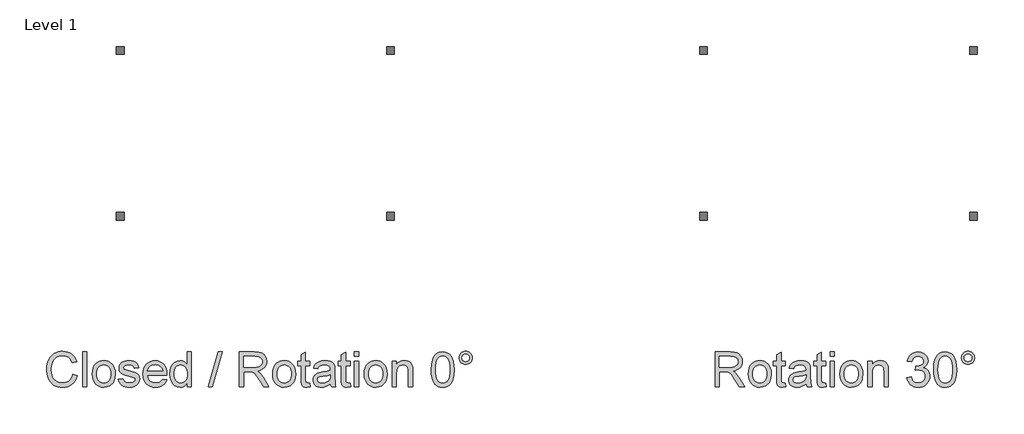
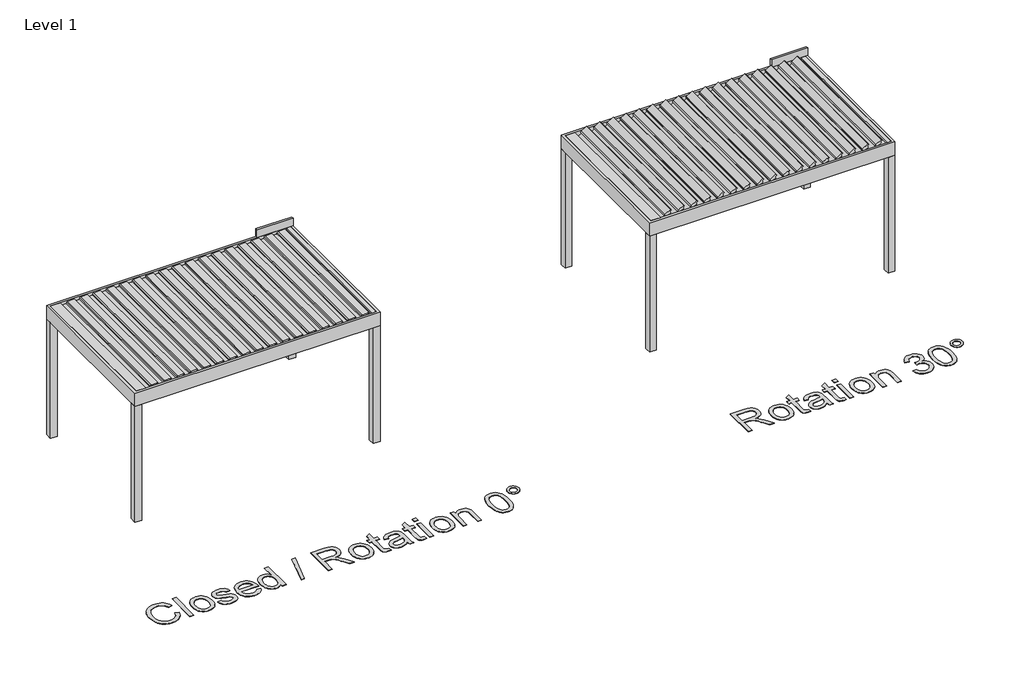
# One storey, part 25 of 47: 4 proxies.
"""IFC4 building model written with IfcOpenShell, lengths in millimetres."""

from ifc_helpers import new_model, si_unit, origin, origin_with_axes, place, context, project, spatial, polyline, outline, extrude, transform, mapped, element, save
from components import generic_models_6c472f40, generic_models_d936cac6

model = new_model("IFC4")

# Units and contexts
model_context = context("Model", 3, world=origin())
ifc_project = project(units=[si_unit("LENGTHUNIT", "METRE", prefix="MILLI")], contexts=[model_context])

# Site, building, storey
site = spatial("IfcSite", under=ifc_project)
building = spatial("IfcBuilding", under=site)
storey = spatial("IfcBuildingStorey", under=building, Name="Level 1", Elevation=0.0)

# Proxies
placement = place(None, origin())
generic_models_shape = generic_models_6c472f40(model_context)
element("IfcBuildingElementProxy", 1, Name="Renson_Algarve_Single : Algarve - Single", ObjectType="Renson_Algarve_Single : Algarve - Single", at=placement, inside=storey, context=model_context, shape_type="MappedRepresentation", body=[
    mapped(generic_models_shape, transform((-9296.834943, 67778.5861401, 0.0), x_axis=(1.0, 0.0, 0.0), y_axis=(0.0, 1.0, 0.0), z_axis=(0.0, 0.0, 1.0))),
])
generic_models_2_shape = generic_models_d936cac6(model_context)
element("IfcBuildingElementProxy", 2, Name="Renson_Algarve_Single : Algarve - Single", ObjectType="Renson_Algarve_Single : Algarve - Single", at=placement, inside=storey, context=model_context, shape_type="MappedRepresentation", body=[
    mapped(generic_models_2_shape, transform((-896.834943, 67778.5861401, 0.0), x_axis=(1.0, 0.0, 0.0), y_axis=(0.0, 1.0, 0.0), z_axis=(0.0, 0.0, 1.0))),
])
element("IfcBuildingElementProxy", 3, Name="500mm Arial", ObjectType="500mm Arial", at=placement, inside=storey, context=model_context, shape_type="SweptSolid", body=[
    extrude(outline(polyline([(-11927.2781087, 64307.1315351), (-11864.4929149, 64290.9447273), (-11876.9165964, 64251.8994185), (-11893.463622, 64217.7821955), (-11914.1339916, 64188.5930585), (-11938.9277053, 64164.3320073), (-11967.2852757, 64145.2596251), (-11998.6472158, 64131.636495), (-12033.0135255, 64123.4626169), (-12070.3842049, 64120.7379909), (-12108.6707571, 64122.7996629), (-12143.2095115, 64128.984679), (-12174.0004681, 64139.293039), (-12201.0436268, 64153.7247431), (-12224.7107018, 64172.0651934), (-12245.3734072, 64194.0997921), (-12263.031743, 64219.8285391), (-12277.6857091, 64249.2514346), (-12289.1935178, 64281.0962198), (-12297.4133811, 64314.0906362), (-12302.3452991, 64348.2346839), (-12303.9892718, 64383.5283628), (-12302.1307013, 64421.3972157), (-12296.5549898, 64456.7675367), (-12287.2621373, 64489.6393258), (-12274.2521439, 64520.012583), (-12257.8162493, 64547.3853027), (-12238.2456936, 64571.2554792), (-12215.5404767, 64591.6231126), (-12189.7005986, 64608.4882028), (-12161.6036112, 64621.7127941), (-12132.1270664, 64631.1589308), (-12101.270964, 64636.8266128), (-12069.0353042, 64638.7158401), (-12033.1246565, 64636.2709577), (-12000.1953859, 64628.9363104), (-11970.2474922, 64616.7118983), (-11943.2809755, 64599.5977213), (-11919.7403599, 64578.0459677), (-11900.0701695, 64552.5088259), (-11884.2704042, 64522.9862958), (-11872.3410641, 64489.4783774), (-11935.126258, 64474.5178429), (-11945.0130866, 64499.2080898), (-11956.8926093, 64520.3038229), (-11970.7648263, 64537.8050424), (-11986.6297373, 64551.7117483), (-12004.579313, 64562.3075161), (-12024.7055238, 64569.8759218), (-12047.0083698, 64574.4169651), (-12071.4878508, 64575.9306463), (-12099.6538161, 64574.2521847), (-12125.41322, 64569.2167999), (-12148.7660625, 64560.8244918), (-12169.7123436, 64549.0752606), (-12187.9876481, 64534.4979366), (-12203.3275609, 64517.62135), (-12215.7320819, 64498.445501), (-12225.2012112, 64476.9703896), (-12237.2033613, 64431.015797), (-12241.204078, 64383.6509901), (-12236.4675973, 64325.6482622), (-12222.2581552, 64275.4936835), (-12211.46695, 64253.8384632), (-12198.0392572, 64235.1033062), (-12181.9750767, 64219.2882125), (-12163.2744086, 64206.3931821), (-12121.5964443, 64189.2406841), (-12076.6381988, 64183.5231847), (-12049.3421212, 64185.4698936), (-12024.2303429, 64191.3100203), (-12001.302864, 64201.0435648), (-11980.5596844, 64214.670527), (-11962.4913135, 64232.1295934), (-11947.5882606, 64253.3594502), (-11935.8505256, 64278.3600974), (-11927.2781087, 64307.1315351)])), origin_with_axes(), (0.0, 0.0, 1.0), 5.0),
    extrude(outline(polyline([(-11786.0114226, 64128.5861401), (-11786.0114226, 64630.8676909), (-11723.2262287, 64630.8676909), (-11723.2262287, 64128.5861401), (-11786.0114226, 64128.5861401)])), origin_with_axes(), (0.0, 0.0, 1.0), 5.0),
    extrude(outline(polyline([(-11644.7447364, 64313.0176471), (-11641.3494922, 64360.788657), (-11631.1637595, 64401.9531194), (-11614.1875382, 64436.5110343), (-11590.4208285, 64464.4624017), (-11566.4931704, 64482.3276711), (-11540.0823088, 64495.0885778), (-11511.1882438, 64502.7451219), (-11479.8109753, 64505.2973032), (-11445.1725862, 64502.1894668), (-11413.8527992, 64492.8659574), (-11385.8516144, 64477.3267753), (-11361.1690318, 64455.5719202), (-11341.0236605, 64428.3371562), (-11326.6341095, 64396.3582474), (-11318.000379, 64359.6351936), (-11315.1224688, 64318.167995), (-11320.211503, 64254.7390076), (-11326.5727959, 64228.7036923), (-11335.4786058, 64206.4544958), (-11346.8178019, 64187.2364936), (-11360.4792531, 64170.2947613), (-11376.4629594, 64155.6292989), (-11394.7689207, 64143.2401063), (-11435.4965233, 64126.3635197), (-11479.8109753, 64120.7379909), (-11514.9552021, 64123.834331), (-11546.566229, 64133.1233514), (-11574.6440558, 64148.605052), (-11599.1886827, 64170.2794329), (-11619.1194562, 64197.7786121), (-11633.355723, 64230.7347075), (-11641.8974831, 64269.1477191), (-11644.7447364, 64313.0176471)]), holes=[polyline([(-11581.9595426, 64313.1402744), (-11580.1431252, 64282.686543), (-11574.6938732, 64256.3178345), (-11565.6117864, 64234.0341491), (-11552.896865, 64215.8354867), (-11537.4304928, 64201.6988546), (-11520.0940537, 64191.6012602), (-11500.8875479, 64185.5427036), (-11479.8109753, 64183.5231847), (-11458.8417015, 64185.5541999), (-11439.7118378, 64191.6472455), (-11422.421384, 64201.8023214), (-11406.9703402, 64216.0194277), (-11394.2554188, 64234.398199), (-11385.173332, 64257.0382701), (-11379.72408, 64283.939641), (-11377.9076626, 64315.1023117), (-11379.7355763, 64344.5903529), (-11385.2193173, 64370.2692826), (-11394.3588856, 64392.1391007), (-11407.1542812, 64410.1998074), (-11422.6628066, 64424.3364395), (-11439.941764, 64434.4340339), (-11458.9911536, 64440.4925905), (-11479.8109753, 64442.5121094), (-11500.8875479, 64440.5002547), (-11520.0940537, 64434.4646907), (-11537.4304928, 64424.4054174), (-11552.896865, 64410.3224348), (-11565.6117864, 64392.1774218), (-11574.6938732, 64369.9320574), (-11580.1431252, 64343.5863416), (-11581.9595426, 64313.1402744)])]), origin_with_axes(), (0.0, 0.0, 1.0), 5.0),
    extrude(outline(polyline([(-11268.0335734, 64238.4602294), (-11205.2483795, 64246.3083786), (-11195.3462225, 64219.4529929), (-11176.1857019, 64199.7099925), (-11147.6441905, 64187.5698867), (-11109.5990608, 64183.5231847), (-11072.0137836, 64187.2326615), (-11045.5875936, 64198.3610919), (-11029.9526088, 64214.486586), (-11024.7409472, 64233.1872541), (-11029.9832657, 64249.1901209), (-11045.710221, 64261.3915404), (-11110.3348248, 64279.2951308), (-11167.6324455, 64295.865149), (-11204.8804975, 64310.0132774), (-11228.8081556, 64325.4489928), (-11246.1445947, 64345.881772), (-11256.6752168, 64370.0086995), (-11260.1854241, 64396.52686), (-11257.3649955, 64420.8530569), (-11248.9037096, 64443.309187), (-11235.5679873, 64463.0062022), (-11218.1242494, 64479.0550542), (-11200.7878103, 64489.1564807), (-11178.2090529, 64497.633095), (-11152.1047596, 64503.3812511), (-11124.1917133, 64505.2973032), (-11083.326155, 64502.2162915), (-11047.7948856, 64492.9732564), (-11019.2227173, 64478.4725744), (-10999.2344622, 64459.6186221), (-10985.9907104, 64435.0165137), (-10977.6520519, 64403.2713632), (-11040.4372457, 64395.423214), (-11048.362037, 64415.1815428), (-11064.0430071, 64430.0654352), (-11087.63344, 64439.4004408), (-11119.28662, 64442.5121094), (-11155.3390555, 64439.5383966), (-11179.3740125, 64430.6172582), (-11192.8936759, 64417.7413883), (-11197.4002303, 64402.9034812), (-11195.5301635, 64393.2465788), (-11189.9199631, 64384.6320088), (-11180.3243744, 64376.9371437), (-11166.4981427, 64370.7751203), (-11112.4194894, 64357.4087411), (-11020.2650496, 64327.8555542), (-10995.9235243, 64313.7227542), (-10977.4681109, 64294.3782926), (-10965.8338428, 64269.7608558), (-10961.9557534, 64239.80913), (-10966.5082931, 64208.8457287), (-10980.1659122, 64179.7217375), (-11002.4074444, 64154.7210902), (-11032.7117238, 64136.127721), (-11069.3159823, 64124.5854234), (-11110.4574521, 64120.7379909), (-11144.2489462, 64122.5927293), (-11173.7638121, 64128.1569445), (-11199.0020498, 64137.4306364), (-11219.9636593, 64150.4138052), (-11237.0855005, 64167.045137), (-11250.8044333, 64187.2633184), (-11261.1204576, 64211.0683491), (-11268.0335734, 64238.4602294)])), origin_with_axes(), (0.0, 0.0, 1.0), 5.0),
    extrude(outline(polyline([(-10633.0692497, 64238.4602294), (-10571.5103292, 64230.6120801), (-10580.9488016, 64205.9563222), (-10593.6905478, 64184.2282919), (-10609.7355677, 64165.4279891), (-10629.0838614, 64149.5554139), (-10651.5361594, 64136.9477913), (-10676.8931924, 64127.9423466), (-10705.1549602, 64122.5390798), (-10736.321463, 64120.7379909), (-10775.2786335, 64123.8458273), (-10809.9898326, 64133.1693367), (-10840.4550603, 64148.7085189), (-10866.6743166, 64170.4633739), (-10887.7585535, 64197.8284294), (-10902.8187227, 64230.1982129), (-10911.8548242, 64267.5727243), (-10914.866858, 64309.9519638), (-10911.8241673, 64353.7682422), (-10902.6960953, 64392.3881875), (-10887.482642, 64425.8117996), (-10866.1838073, 64454.0390785), (-10840.0335288, 64476.4645518), (-10810.265744, 64492.482747), (-10776.880453, 64502.0936642), (-10739.8776556, 64505.2973032), (-10704.0666427, 64502.1013284), (-10671.6815308, 64492.5134039), (-10642.72232, 64476.5335297), (-10617.1890102, 64454.1617059), (-10596.346196, 64425.9957406), (-10581.4584715, 64392.6334422), (-10572.5258368, 64354.0748106), (-10569.5482919, 64310.3198458), (-10569.9161739, 64293.397274), (-10852.0816642, 64293.397274), (-10848.4449974, 64268.3429773), (-10841.2138169, 64246.4003491), (-10830.3881228, 64227.5693895), (-10815.967915, 64211.8500984), (-10798.7502712, 64199.4570737), (-10779.532269, 64190.6049132), (-10758.3139085, 64185.2936169), (-10735.0951897, 64183.5231847), (-10701.6792418, 64186.8034659), (-10673.5362692, 64196.6443092), (-10650.6662718, 64213.6588515), (-10633.0692497, 64238.4602294)]), holes=[polyline([(-10852.0816642, 64356.1824678), (-10632.3334857, 64356.1824678), (-10640.8254284, 64389.353161), (-10657.4720887, 64413.0815497), (-10674.5939299, 64425.9574196), (-10694.0763472, 64435.1544694), (-10715.9193407, 64440.6726994), (-10740.1229103, 64442.5121094), (-10782.4446682, 64436.6413258), (-10800.8579284, 64429.3028465), (-10817.439443, 64419.0289753), (-10831.353813, 64406.2948933), (-10841.7656399, 64391.5757814), (-10848.6749236, 64374.8716396), (-10852.0816642, 64356.1824678)])]), origin_with_axes(), (0.0, 0.0, 1.0), 5.0),
    extrude(outline(polyline([(-10279.1667703, 64128.5861401), (-10279.1667703, 64187.8151414), (-10297.9517447, 64158.468888), (-10320.706779, 64137.5072785), (-10347.4318731, 64124.9303128), (-10378.127027, 64120.7379909), (-10418.7166738, 64126.8080438), (-10455.8727554, 64145.0182026), (-10487.3266659, 64174.0962086), (-10510.8098, 64212.7698034), (-10525.4331093, 64259.4754883), (-10530.3075457, 64312.6497651), (-10525.8163197, 64365.1649199), (-10512.3426416, 64412.5910404), (-10502.2412152, 64433.7212625), (-10489.9018399, 64452.2303254), (-10475.3245159, 64468.1182291), (-10458.509243, 64481.3849735), (-10420.5407554, 64499.3192208), (-10378.3722817, 64505.2973032), (-10347.6541351, 64501.020675), (-10320.4921811, 64488.1907904), (-10297.4688996, 64468.5244321), (-10279.1667703, 64443.7383827), (-10279.1667703, 64630.8676909), (-10216.3815765, 64630.8676909), (-10216.3815765, 64128.5861401), (-10279.1667703, 64128.5861401)]), holes=[polyline([(-10467.5223519, 64312.8950197), (-10465.7519198, 64282.4489525), (-10460.4406235, 64256.1032367), (-10451.588463, 64233.8578723), (-10439.1954382, 64215.7128593), (-10424.3958521, 64201.6298767), (-10408.3240075, 64191.5706034), (-10390.9799043, 64185.5350394), (-10372.3635425, 64183.5231847), (-10353.6590423, 64185.4430689), (-10336.4184058, 64191.2027214), (-10320.6416332, 64200.8021422), (-10306.3287243, 64214.2413313), (-10294.4453695, 64231.6275877), (-10285.9572588, 64253.0682103), (-10280.8643925, 64278.5631989), (-10279.1667703, 64308.1125538), (-10280.8950493, 64340.509162), (-10286.0798862, 64368.2919168), (-10294.721281, 64391.4608183), (-10306.8192336, 64410.0158664), (-10321.4463751, 64424.2329727), (-10337.675336, 64434.3880486), (-10355.5061164, 64440.4810942), (-10374.9387164, 64442.5121094), (-10393.9229602, 64440.5615684), (-10411.2670634, 64434.7099454), (-10426.9710261, 64424.9572404), (-10441.0348482, 64411.3034534), (-10452.6231311, 64393.4496804), (-10460.900476, 64371.097017), (-10465.8668829, 64344.2454635), (-10467.5223519, 64312.8950197)])]), origin_with_axes(), (0.0, 0.0, 1.0), 5.0),
    extrude(outline(polyline([(-9973.0889504, 64128.5861401), (-9831.8222642, 64630.8676909), (-9775.168437, 64630.8676909), (-9916.4351231, 64128.5861401), (-9973.0889504, 64128.5861401)])), origin_with_axes(), (0.0, 0.0, 1.0), 5.0),
    extrude(outline(polyline([(-9525.7444442, 64128.5861401), (-9525.7444442, 64630.8676909), (-9309.3072037, 64630.8676909), (-9251.1358632, 64627.4801108), (-9208.8141054, 64617.3173707), (-9177.881361, 64598.555389), (-9153.8770608, 64569.370084), (-9138.4720022, 64533.1796927), (-9133.3369827, 64493.402452), (-9135.4638005, 64467.6047271), (-9141.8442538, 64443.9223237), (-9152.4783428, 64422.3552417), (-9167.3660673, 64402.9034812), (-9186.6990325, 64386.187843), (-9210.6688438, 64372.8291281), (-9239.275501, 64362.8273364), (-9272.5190042, 64356.1824678), (-9251.825642, 64342.6628045), (-9236.8344507, 64329.3270822), (-9185.944108, 64264.7024784), (-9102.1896404, 64128.5861401), (-9175.1529028, 64128.5861401), (-9240.5132706, 64232.6967448), (-9287.7247933, 64301.6133052), (-9305.2758302, 64321.7088592), (-9320.8954866, 64334.1708618), (-9350.7552419, 64346.1270266), (-9387.1755594, 64348.3343186), (-9462.9592504, 64348.3343186), (-9462.9592504, 64128.5861401), (-9525.7444442, 64128.5861401)]), holes=[polyline([(-9462.9592504, 64411.1195124), (-9322.4283282, 64411.1195124), (-9282.0686077, 64413.3421328), (-9250.7526528, 64420.009994), (-9227.1775483, 64431.56762), (-9210.0403787, 64448.4595349), (-9199.6017271, 64468.8923141), (-9196.1221765, 64491.0725327), (-9197.7814776, 64507.129049), (-9202.7593809, 64521.6987088), (-9211.0558863, 64534.7815123), (-9222.6709939, 64546.3774593), (-9237.8729509, 64555.8734133), (-9256.9300047, 64562.6562376), (-9306.6094024, 64568.082497), (-9462.9592504, 64568.082497), (-9462.9592504, 64411.1195124)])]), origin_with_axes(), (0.0, 0.0, 1.0), 5.0),
    extrude(outline(polyline([(-9047.0073412, 64313.0176471), (-9043.6120969, 64360.788657), (-9033.4263642, 64401.9531194), (-9016.4501429, 64436.5110343), (-8992.6834332, 64464.4624017), (-8968.7557751, 64482.3276711), (-8942.3449135, 64495.0885778), (-8913.4508485, 64502.7451219), (-8882.07358, 64505.2973032), (-8847.4351909, 64502.1894668), (-8816.1154039, 64492.8659574), (-8788.1142192, 64477.3267753), (-8763.4316366, 64455.5719202), (-8743.2862652, 64428.3371562), (-8728.8967143, 64396.3582474), (-8720.2629837, 64359.6351936), (-8717.3850735, 64318.167995), (-8722.4741078, 64254.7390076), (-8728.8354006, 64228.7036923), (-8737.7412106, 64206.4544958), (-8749.0804066, 64187.2364936), (-8762.7418578, 64170.2947613), (-8778.7255641, 64155.6292989), (-8797.0315254, 64143.2401063), (-8837.759128, 64126.3635197), (-8882.07358, 64120.7379909), (-8917.2178068, 64123.834331), (-8948.8288337, 64133.1233514), (-8976.9066606, 64148.605052), (-9001.4512874, 64170.2794329), (-9021.3820609, 64197.7786121), (-9035.6183277, 64230.7347075), (-9044.1600878, 64269.1477191), (-9047.0073412, 64313.0176471)]), holes=[polyline([(-8984.2221473, 64313.1402744), (-8982.40573, 64282.686543), (-8976.9564779, 64256.3178345), (-8967.8743912, 64234.0341491), (-8955.1594697, 64215.8354867), (-8939.6930975, 64201.6988546), (-8922.3566585, 64191.6012602), (-8903.1501526, 64185.5427036), (-8882.07358, 64183.5231847), (-8861.1043063, 64185.5541999), (-8841.9744425, 64191.6472455), (-8824.6839887, 64201.8023214), (-8809.232945, 64216.0194277), (-8796.5180235, 64234.398199), (-8787.4359367, 64257.0382701), (-8781.9866847, 64283.939641), (-8780.1702673, 64315.1023117), (-8781.998181, 64344.5903529), (-8787.481922, 64370.2692826), (-8796.6214903, 64392.1391007), (-8809.4168859, 64410.1998074), (-8824.9254113, 64424.3364395), (-8842.2043688, 64434.4340339), (-8861.2537583, 64440.4925905), (-8882.07358, 64442.5121094), (-8903.1501526, 64440.5002547), (-8922.3566585, 64434.4646907), (-8939.6930975, 64424.4054174), (-8955.1594697, 64410.3224348), (-8967.8743912, 64392.1774218), (-8976.9564779, 64369.9320574), (-8982.40573, 64343.5863416), (-8984.2221473, 64313.1402744)])]), origin_with_axes(), (0.0, 0.0, 1.0), 5.0),
    extrude(outline(polyline([(-8513.3331935, 64180.9480108), (-8505.4850443, 64126.7467302), (-8552.4513123, 64120.7379909), (-8582.5869791, 64123.3438217), (-8605.0584376, 64131.1613141), (-8620.9386771, 64143.2094494), (-8631.3006866, 64158.5072091), (-8637.0028575, 64184.7801149), (-8638.9035812, 64229.7536888), (-8638.9035812, 64434.6639601), (-8685.9924766, 64434.6639601), (-8685.9924766, 64497.449154), (-8638.9035812, 64497.449154), (-8638.9035812, 64587.0897335), (-8576.1183873, 64624.0005603), (-8576.1183873, 64497.449154), (-8513.3331935, 64497.449154), (-8513.3331935, 64434.6639601), (-8576.1183873, 64434.6639601), (-8576.1183873, 64231.5930988), (-8572.8074494, 64199.2194832), (-8562.0775579, 64187.7538277), (-8540.6790885, 64183.5231847), (-8513.3331935, 64180.9480108)])), origin_with_axes(), (0.0, 0.0, 1.0), 5.0),
    extrude(outline(polyline([(-8215.1035227, 64175.6750355), (-8245.1012338, 64149.9539527), (-8275.9879929, 64133.1233514), (-8308.4689074, 64123.834331), (-8343.2490844, 64120.7379909), (-8371.2042839, 64122.6003935), (-8395.718254, 64128.1876013), (-8416.7909945, 64137.4996143), (-8434.4225055, 64150.5364325), (-8448.3445398, 64166.4703214), (-8458.28885, 64184.4735466), (-8464.2554361, 64204.5461079), (-8466.2442981, 64226.6880055), (-8463.2399285, 64252.7156567), (-8454.2268196, 64276.3520749), (-8440.3239459, 64296.5855846), (-8422.6502817, 64312.4045104), (-8401.8802774, 64324.3606752), (-8378.6883833, 64333.0059021), (-8324.3644753, 64342.4482067), (-8260.1690671, 64352.3810205), (-8215.4714047, 64364.030617), (-8215.1035227, 64378.0101329), (-8219.4261362, 64406.0304782), (-8232.3939765, 64424.3632643), (-8245.4691158, 64432.303384), (-8261.3953405, 64437.9748981), (-8301.8010463, 64442.5121094), (-8339.2023824, 64439.4924113), (-8365.3220041, 64430.4333172), (-8383.133624, 64413.679358), (-8395.610955, 64387.5750647), (-8458.3961489, 64395.423214), (-8447.4976448, 64429.7588669), (-8431.2341949, 64456.7368798), (-8408.088286, 64477.3689284), (-8376.542405, 64492.666688), (-8337.9607807, 64502.1396494), (-8293.7076424, 64505.2973032), (-8251.2632572, 64502.5075314), (-8217.617383, 64494.138216), (-8192.2488538, 64481.5535861), (-8174.6365033, 64466.1178707), (-8162.9562499, 64447.0339922), (-8155.3840122, 64423.5048729), (-8152.3183289, 64368.5678283), (-8152.3183289, 64290.454218), (-8149.1300183, 64181.3772064), (-8144.408866, 64154.4145219), (-8136.6220304, 64128.5861401), (-8199.4072243, 64128.5861401), (-8209.4626655, 64150.4138052), (-8215.1035227, 64175.6750355)]), holes=[polyline([(-8215.1035227, 64301.2454232), (-8257.2873249, 64290.7914432), (-8316.3936987, 64281.9929321), (-8370.4110384, 64271.8148636), (-8384.4671963, 64264.8557625), (-8394.875191, 64255.2601738), (-8401.313126, 64243.7638615), (-8403.4591043, 64231.1025895), (-8398.7839372, 64212.4325782), (-8384.7584362, 64197.1348186), (-8361.6891694, 64186.9260932), (-8329.8827052, 64183.5231847), (-8296.160189, 64187.2786468), (-8266.3617474, 64198.5450329), (-8242.2041631, 64215.1457079), (-8225.4042186, 64234.9040367), (-8217.9546082, 64255.2601738), (-8215.4714047, 64283.4644601), (-8215.1035227, 64301.2454232)])]), origin_with_axes(), (0.0, 0.0, 1.0), 5.0),
    extrude(outline(polyline([(-7932.5701504, 64180.9480108), (-7924.7220012, 64126.7467302), (-7971.6882693, 64120.7379909), (-8001.823936, 64123.3438217), (-8024.2953946, 64131.1613141), (-8040.175634, 64143.2094494), (-8050.5376436, 64158.5072091), (-8056.2398145, 64184.7801149), (-8058.1405381, 64229.7536888), (-8058.1405381, 64434.6639601), (-8105.2294335, 64434.6639601), (-8105.2294335, 64497.449154), (-8058.1405381, 64497.449154), (-8058.1405381, 64587.0897335), (-7995.3553443, 64624.0005603), (-7995.3553443, 64497.449154), (-7932.5701504, 64497.449154), (-7932.5701504, 64434.6639601), (-7995.3553443, 64434.6639601), (-7995.3553443, 64231.5930988), (-7992.0444063, 64199.2194832), (-7981.3145148, 64187.7538277), (-7959.9160454, 64183.5231847), (-7932.5701504, 64180.9480108)])), origin_with_axes(), (0.0, 0.0, 1.0), 5.0),
    extrude(outline(polyline([(-7869.7849566, 64128.5861401), (-7869.7849566, 64497.449154), (-7806.9997628, 64497.449154), (-7806.9997628, 64128.5861401), (-7869.7849566, 64128.5861401)])), origin_with_axes(), (0.0, 0.0, 1.0), 5.0),
    extrude(outline(polyline([(-7869.7849566, 64568.082497), (-7869.7849566, 64630.8676909), (-7806.9997628, 64630.8676909), (-7806.9997628, 64568.082497), (-7869.7849566, 64568.082497)])), origin_with_axes(), (0.0, 0.0, 1.0), 5.0),
    extrude(outline(polyline([(-7728.5182705, 64313.0176471), (-7725.1230262, 64360.788657), (-7714.9372935, 64401.9531194), (-7697.9610722, 64436.5110343), (-7674.1943625, 64464.4624017), (-7650.2667044, 64482.3276711), (-7623.8558428, 64495.0885778), (-7594.9617778, 64502.7451219), (-7563.5845093, 64505.2973032), (-7528.9461202, 64502.1894668), (-7497.6263332, 64492.8659574), (-7469.6251485, 64477.3267753), (-7444.9425658, 64455.5719202), (-7424.7971945, 64428.3371562), (-7410.4076435, 64396.3582474), (-7401.773913, 64359.6351936), (-7398.8960028, 64318.167995), (-7403.985037, 64254.7390076), (-7410.3463299, 64228.7036923), (-7419.2521398, 64206.4544958), (-7430.5913359, 64187.2364936), (-7444.2527871, 64170.2947613), (-7460.2364934, 64155.6292989), (-7478.5424547, 64143.2401063), (-7519.2700573, 64126.3635197), (-7563.5845093, 64120.7379909), (-7598.7287361, 64123.834331), (-7630.339763, 64133.1233514), (-7658.4175899, 64148.605052), (-7682.9622167, 64170.2794329), (-7702.8929902, 64197.7786121), (-7717.129257, 64230.7347075), (-7725.6710171, 64269.1477191), (-7728.5182705, 64313.0176471)]), holes=[polyline([(-7665.7330766, 64313.1402744), (-7663.9166593, 64282.686543), (-7658.4674072, 64256.3178345), (-7649.3853204, 64234.0341491), (-7636.670399, 64215.8354867), (-7621.2040268, 64201.6988546), (-7603.8675878, 64191.6012602), (-7584.6610819, 64185.5427036), (-7563.5845093, 64183.5231847), (-7542.6152356, 64185.5541999), (-7523.4853718, 64191.6472455), (-7506.194918, 64201.8023214), (-7490.7438742, 64216.0194277), (-7478.0289528, 64234.398199), (-7468.946866, 64257.0382701), (-7463.497614, 64283.939641), (-7461.6811966, 64315.1023117), (-7463.5091103, 64344.5903529), (-7468.9928513, 64370.2692826), (-7478.1324196, 64392.1391007), (-7490.9278152, 64410.1998074), (-7506.4363406, 64424.3364395), (-7523.7152981, 64434.4340339), (-7542.7646876, 64440.4925905), (-7563.5845093, 64442.5121094), (-7584.6610819, 64440.5002547), (-7603.8675878, 64434.4646907), (-7621.2040268, 64424.4054174), (-7636.670399, 64410.3224348), (-7649.3853204, 64392.1774218), (-7658.4674072, 64369.9320574), (-7663.9166593, 64343.5863416), (-7665.7330766, 64313.1402744)])]), origin_with_axes(), (0.0, 0.0, 1.0), 5.0),
    extrude(outline(polyline([(-7328.2626597, 64128.5861401), (-7328.2626597, 64497.449154), (-7265.4774659, 64497.449154), (-7265.4774659, 64445.9456746), (-7243.6651292, 64471.9120121), (-7217.4688655, 64490.4593961), (-7186.8886746, 64501.5878264), (-7151.9245567, 64505.2973032), (-7120.9764838, 64502.308262), (-7092.6342418, 64493.3411384), (-7068.9978236, 64479.5149067), (-7052.1672223, 64461.9485414), (-7040.7475521, 64440.6880278), (-7033.3439269, 64415.779351), (-7030.0329889, 64355.0788218), (-7030.0329889, 64128.5861401), (-7092.8181828, 64128.5861401), (-7092.8181828, 64346.6175359), (-7094.6269359, 64379.083122), (-7100.0531954, 64402.1677172), (-7110.0626513, 64418.7070786), (-7125.620994, 64431.5369632), (-7145.5632638, 64439.7683228), (-7168.7245011, 64442.5121094), (-7187.7892191, 64440.9716035), (-7205.4973722, 64436.3500859), (-7221.8489605, 64428.6475567), (-7236.8439839, 64417.8640157), (-7249.3711323, 64402.7731897), (-7258.3190954, 64382.1488053), (-7263.6878732, 64355.9908626), (-7265.4774659, 64324.2993616), (-7265.4774659, 64128.5861401), (-7328.2626597, 64128.5861401)])), origin_with_axes(), (0.0, 0.0, 1.0), 5.0),
    extrude(outline(polyline([(-6763.1959151, 64375.6802136), (-6758.5820618, 64456.0777579), (-6744.7405017, 64520.196524), (-6734.3938206, 64546.3966198), (-6721.8091907, 64569.0175304), (-6706.9866119, 64588.0592558), (-6689.9260844, 64603.5217959), (-6670.5701265, 64615.485625), (-6648.8612567, 64624.0312171), (-6624.7994749, 64629.1585724), (-6598.3847813, 64630.8676909), (-6559.6958581, 64626.8209889), (-6525.0536369, 64614.6808831), (-6496.0829298, 64594.9225543), (-6474.4085489, 64568.0211834), (-6458.0378001, 64534.2066967), (-6444.9779893, 64493.7090203), (-6436.4247329, 64442.2821831), (-6433.5736474, 64375.6802136), (-6438.1415155, 64295.7425217), (-6451.8451199, 64231.7770398), (-6462.1113268, 64205.5654476), (-6474.6384751, 64182.9100481), (-6489.4265649, 64163.8108412), (-6506.4755961, 64148.2678269), (-6525.8545467, 64136.2235236), (-6547.6323944, 64127.6204499), (-6571.8091392, 64122.4586057), (-6598.3847813, 64120.7379909), (-6632.9656888, 64123.7270321), (-6663.6225217, 64132.6941557), (-6690.3552801, 64147.6393618), (-6713.1639638, 64168.5626503), (-6735.0529425, 64206.3855179), (-6750.6879273, 64253.5127343), (-6760.0689181, 64309.9442995), (-6763.1959151, 64375.6802136)]), holes=[polyline([(-6700.4107213, 64375.8028409), (-6698.5713113, 64321.222182), (-6693.0530814, 64277.0418536), (-6683.8560315, 64243.2618558), (-6670.9801617, 64219.8821886), (-6655.4064905, 64203.9751244), (-6638.1160367, 64192.6129357), (-6619.1088003, 64185.7956225), (-6598.3847813, 64183.5231847), (-6577.6607622, 64185.8032867), (-6558.6535258, 64192.6435925), (-6541.363072, 64204.0441023), (-6525.7894009, 64220.0048159), (-6512.9135311, 64243.4228042), (-6503.7164812, 64277.1951378), (-6498.1982512, 64321.3218167), (-6496.3588413, 64375.8028409), (-6498.1369376, 64428.9387966), (-6503.4712265, 64472.3412078), (-6512.3617081, 64506.0100746), (-6524.8083822, 64529.9453969), (-6540.1214703, 64546.6303782), (-6557.6111935, 64558.548222), (-6577.2775518, 64565.6989283), (-6599.1205453, 64568.082497), (-6619.7372654, 64565.982504), (-6638.4226051, 64559.6825248), (-6655.1765643, 64549.1825595), (-6669.999143, 64534.4826081), (-6683.3042085, 64508.4243002), (-6692.8078267, 64473.2915696), (-6698.5099976, 64429.0844165), (-6700.4107213, 64375.8028409)])]), origin_with_axes(), (0.0, 0.0, 1.0), 5.0),
    extrude(outline(polyline([(-6362.9403044, 64544.6606767), (-6361.2120254, 64563.4916363), (-6356.0271885, 64580.8663964), (-6347.3857937, 64596.7849569), (-6335.2878411, 64611.2473178), (-6320.7679986, 64623.2647963), (-6304.8609344, 64631.8487095), (-6287.5666485, 64636.9990575), (-6268.8851409, 64638.7158401), (-6249.9468824, 64636.9990575), (-6232.4954802, 64631.8487095), (-6216.5309345, 64623.2647963), (-6202.0532451, 64611.2473178), (-6190.0357666, 64596.7849569), (-6181.4518534, 64580.8663964), (-6176.3015055, 64563.4916363), (-6174.5847228, 64544.6606767), (-6176.3130018, 64525.8718702), (-6181.4978387, 64508.5009422), (-6190.1392334, 64492.5478928), (-6202.2371861, 64478.0127219), (-6216.772357, 64465.9147692), (-6232.7254065, 64457.2733744), (-6250.0963344, 64452.0885375), (-6268.8851409, 64450.3602586), (-6287.5666485, 64452.0770412), (-6304.8609344, 64457.2273892), (-6320.7679986, 64465.8113024), (-6335.2878411, 64477.8287809), (-6347.3857937, 64492.3064702), (-6356.0271885, 64508.271016), (-6361.2120254, 64525.7224181), (-6362.9403044, 64544.6606767)]), holes=[polyline([(-6323.6995582, 64544.5380493), (-6319.6681847, 64523.4154915), (-6307.5740641, 64505.6651852), (-6289.7777726, 64493.6170498), (-6268.6398863, 64489.6010047), (-6247.685941, 64493.6170498), (-6229.9509631, 64505.6651852), (-6217.8568425, 64523.4154915), (-6213.825469, 64544.5380493), (-6217.8568425, 64565.6606072), (-6229.9509631, 64583.4109135), (-6247.685941, 64595.4590488), (-6268.6398863, 64599.475094), (-6289.7777726, 64595.4590488), (-6307.5740641, 64583.4109135), (-6319.6681847, 64565.6606072), (-6323.6995582, 64544.5380493)])]), origin_with_axes(), (0.0, 0.0, 1.0), 5.0),
])
element("IfcBuildingElementProxy", 4, Name="500mm Arial", ObjectType="500mm Arial", at=placement, inside=storey, context=model_context, shape_type="SweptSolid", body=[
    extrude(outline(polyline([(-2675.0312961, 64128.5861401), (-2675.0312961, 64630.8676909), (-2458.5940556, 64630.8676909), (-2400.4227151, 64627.4801108), (-2358.1009573, 64617.3173707), (-2327.1682129, 64598.555389), (-2303.1639127, 64569.370084), (-2287.7588541, 64533.1796927), (-2282.6238346, 64493.402452), (-2284.7506524, 64467.6047271), (-2291.1311057, 64443.9223237), (-2301.7651947, 64422.3552417), (-2316.6529192, 64402.9034812), (-2335.9858844, 64386.187843), (-2359.9556957, 64372.8291281), (-2388.5623529, 64362.8273364), (-2421.8058561, 64356.1824678), (-2401.1124939, 64342.6628045), (-2386.1213026, 64329.3270822), (-2335.2309599, 64264.7024784), (-2251.4764924, 64128.5861401), (-2324.4397547, 64128.5861401), (-2389.8001225, 64232.6967448), (-2437.0116453, 64301.6133052), (-2454.5626821, 64321.7088592), (-2470.1823385, 64334.1708618), (-2500.0420938, 64346.1270266), (-2536.4624113, 64348.3343186), (-2612.2461023, 64348.3343186), (-2612.2461023, 64128.5861401), (-2675.0312961, 64128.5861401)]), holes=[polyline([(-2612.2461023, 64411.1195124), (-2471.7151801, 64411.1195124), (-2431.3554596, 64413.3421328), (-2400.0395047, 64420.009994), (-2376.4644002, 64431.56762), (-2359.3272306, 64448.4595349), (-2348.888579, 64468.8923141), (-2345.4090285, 64491.0725327), (-2347.0683295, 64507.129049), (-2352.0462328, 64521.6987088), (-2360.3427382, 64534.7815123), (-2371.9578458, 64546.3774593), (-2387.1598028, 64555.8734133), (-2406.2168566, 64562.6562376), (-2455.8962543, 64568.082497), (-2612.2461023, 64568.082497), (-2612.2461023, 64411.1195124)])]), origin_with_axes(), (0.0, 0.0, 1.0), 5.0),
    extrude(outline(polyline([(-2196.2941931, 64313.0176471), (-2192.8989488, 64360.788657), (-2182.7132161, 64401.9531194), (-2165.7369949, 64436.5110343), (-2141.9702851, 64464.4624017), (-2118.042627, 64482.3276711), (-2091.6317654, 64495.0885778), (-2062.7377004, 64502.7451219), (-2031.3604319, 64505.2973032), (-1996.7220428, 64502.1894668), (-1965.4022559, 64492.8659574), (-1937.4010711, 64477.3267753), (-1912.7184885, 64455.5719202), (-1892.5731171, 64428.3371562), (-1878.1835662, 64396.3582474), (-1869.5498356, 64359.6351936), (-1866.6719254, 64318.167995), (-1871.7609597, 64254.7390076), (-1878.1222525, 64228.7036923), (-1887.0280625, 64206.4544958), (-1898.3672585, 64187.2364936), (-1912.0287097, 64170.2947613), (-1928.012416, 64155.6292989), (-1946.3183774, 64143.2401063), (-1987.0459799, 64126.3635197), (-2031.3604319, 64120.7379909), (-2066.5046588, 64123.834331), (-2098.1156856, 64133.1233514), (-2126.1935125, 64148.605052), (-2150.7381393, 64170.2794329), (-2170.6689128, 64197.7786121), (-2184.9051796, 64230.7347075), (-2193.4469397, 64269.1477191), (-2196.2941931, 64313.0176471)]), holes=[polyline([(-2133.5089992, 64313.1402744), (-2131.6925819, 64282.686543), (-2126.2433298, 64256.3178345), (-2117.1612431, 64234.0341491), (-2104.4463216, 64215.8354867), (-2088.9799494, 64201.6988546), (-2071.6435104, 64191.6012602), (-2052.4370045, 64185.5427036), (-2031.3604319, 64183.5231847), (-2010.3911582, 64185.5541999), (-1991.2612944, 64191.6472455), (-1973.9708407, 64201.8023214), (-1958.5197969, 64216.0194277), (-1945.8048754, 64234.398199), (-1936.7227886, 64257.0382701), (-1931.2735366, 64283.939641), (-1929.4571192, 64315.1023117), (-1931.2850329, 64344.5903529), (-1936.7687739, 64370.2692826), (-1945.9083422, 64392.1391007), (-1958.7037379, 64410.1998074), (-1974.2122632, 64424.3364395), (-1991.4912207, 64434.4340339), (-2010.5406102, 64440.4925905), (-2031.3604319, 64442.5121094), (-2052.4370045, 64440.5002547), (-2071.6435104, 64434.4646907), (-2088.9799494, 64424.4054174), (-2104.4463216, 64410.3224348), (-2117.1612431, 64392.1774218), (-2126.2433298, 64369.9320574), (-2131.6925819, 64343.5863416), (-2133.5089992, 64313.1402744)])]), origin_with_axes(), (0.0, 0.0, 1.0), 5.0),
    extrude(outline(polyline([(-1662.6200454, 64180.9480108), (-1654.7718962, 64126.7467302), (-1701.7381642, 64120.7379909), (-1731.873831, 64123.3438217), (-1754.3452895, 64131.1613141), (-1770.225529, 64143.2094494), (-1780.5875385, 64158.5072091), (-1786.2897095, 64184.7801149), (-1788.1904331, 64229.7536888), (-1788.1904331, 64434.6639601), (-1835.2793285, 64434.6639601), (-1835.2793285, 64497.449154), (-1788.1904331, 64497.449154), (-1788.1904331, 64587.0897335), (-1725.4052392, 64624.0005603), (-1725.4052392, 64497.449154), (-1662.6200454, 64497.449154), (-1662.6200454, 64434.6639601), (-1725.4052392, 64434.6639601), (-1725.4052392, 64231.5930988), (-1722.0943013, 64199.2194832), (-1711.3644098, 64187.7538277), (-1689.9659404, 64183.5231847), (-1662.6200454, 64180.9480108)])), origin_with_axes(), (0.0, 0.0, 1.0), 5.0),
    extrude(outline(polyline([(-1364.3903746, 64175.6750355), (-1394.3880857, 64149.9539527), (-1425.2748449, 64133.1233514), (-1457.7557593, 64123.834331), (-1492.5359363, 64120.7379909), (-1520.4911358, 64122.6003935), (-1545.0051059, 64128.1876013), (-1566.0778464, 64137.4996143), (-1583.7093574, 64150.5364325), (-1597.6313917, 64166.4703214), (-1607.5757019, 64184.4735466), (-1613.542288, 64204.5461079), (-1615.53115, 64226.6880055), (-1612.5267804, 64252.7156567), (-1603.5136715, 64276.3520749), (-1589.6107978, 64296.5855846), (-1571.9371336, 64312.4045104), (-1551.1671293, 64324.3606752), (-1527.9752352, 64333.0059021), (-1473.6513272, 64342.4482067), (-1409.4559191, 64352.3810205), (-1364.7582566, 64364.030617), (-1364.3903746, 64378.0101329), (-1368.7129881, 64406.0304782), (-1381.6808284, 64424.3632643), (-1394.7559677, 64432.303384), (-1410.6821924, 64437.9748981), (-1451.0878982, 64442.5121094), (-1488.4892344, 64439.4924113), (-1514.608856, 64430.4333172), (-1532.4204759, 64413.679358), (-1544.8978069, 64387.5750647), (-1607.6830008, 64395.423214), (-1596.7844967, 64429.7588669), (-1580.5210468, 64456.7368798), (-1557.375138, 64477.3689284), (-1525.8292569, 64492.666688), (-1487.2476326, 64502.1396494), (-1442.9944943, 64505.2973032), (-1400.5501091, 64502.5075314), (-1366.9042349, 64494.138216), (-1341.5357057, 64481.5535861), (-1323.9233552, 64466.1178707), (-1312.2431018, 64447.0339922), (-1304.6708641, 64423.5048729), (-1301.6051808, 64368.5678283), (-1301.6051808, 64290.454218), (-1298.4168702, 64181.3772064), (-1293.6957179, 64154.4145219), (-1285.9088823, 64128.5861401), (-1348.6940762, 64128.5861401), (-1358.7495174, 64150.4138052), (-1364.3903746, 64175.6750355)]), holes=[polyline([(-1364.3903746, 64301.2454232), (-1406.5741768, 64290.7914432), (-1465.6805507, 64281.9929321), (-1519.6978903, 64271.8148636), (-1533.7540482, 64264.8557625), (-1544.162043, 64255.2601738), (-1550.5999779, 64243.7638615), (-1552.7459562, 64231.1025895), (-1548.0707892, 64212.4325782), (-1534.0452881, 64197.1348186), (-1510.9760213, 64186.9260932), (-1479.1695571, 64183.5231847), (-1445.4470409, 64187.2786468), (-1415.6485993, 64198.5450329), (-1391.491015, 64215.1457079), (-1374.6910705, 64234.9040367), (-1367.2414601, 64255.2601738), (-1364.7582566, 64283.4644601), (-1364.3903746, 64301.2454232)])]), origin_with_axes(), (0.0, 0.0, 1.0), 5.0),
    extrude(outline(polyline([(-1081.8570024, 64180.9480108), (-1074.0088531, 64126.7467302), (-1120.9751212, 64120.7379909), (-1151.1107879, 64123.3438217), (-1173.5822465, 64131.1613141), (-1189.4624859, 64143.2094494), (-1199.8244955, 64158.5072091), (-1205.5266664, 64184.7801149), (-1207.42739, 64229.7536888), (-1207.42739, 64434.6639601), (-1254.5162854, 64434.6639601), (-1254.5162854, 64497.449154), (-1207.42739, 64497.449154), (-1207.42739, 64587.0897335), (-1144.6421962, 64624.0005603), (-1144.6421962, 64497.449154), (-1081.8570024, 64497.449154), (-1081.8570024, 64434.6639601), (-1144.6421962, 64434.6639601), (-1144.6421962, 64231.5930988), (-1141.3312582, 64199.2194832), (-1130.6013667, 64187.7538277), (-1109.2028973, 64183.5231847), (-1081.8570024, 64180.9480108)])), origin_with_axes(), (0.0, 0.0, 1.0), 5.0),
    extrude(outline(polyline([(-1019.0718085, 64568.082497), (-1019.0718085, 64630.8676909), (-956.2866147, 64630.8676909), (-956.2866147, 64568.082497), (-1019.0718085, 64568.082497)])), origin_with_axes(), (0.0, 0.0, 1.0), 5.0),
    extrude(outline(polyline([(-1019.0718085, 64128.5861401), (-1019.0718085, 64497.449154), (-956.2866147, 64497.449154), (-956.2866147, 64128.5861401), (-1019.0718085, 64128.5861401)])), origin_with_axes(), (0.0, 0.0, 1.0), 5.0),
    extrude(outline(polyline([(-877.8051224, 64313.0176471), (-874.4098781, 64360.788657), (-864.2241454, 64401.9531194), (-847.2479241, 64436.5110343), (-823.4812144, 64464.4624017), (-799.5535563, 64482.3276711), (-773.1426947, 64495.0885778), (-744.2486297, 64502.7451219), (-712.8713612, 64505.2973032), (-678.2329721, 64502.1894668), (-646.9131851, 64492.8659574), (-618.9120004, 64477.3267753), (-594.2294177, 64455.5719202), (-574.0840464, 64428.3371562), (-559.6944954, 64396.3582474), (-551.0607649, 64359.6351936), (-548.1828547, 64318.167995), (-553.271889, 64254.7390076), (-559.6331818, 64228.7036923), (-568.5389918, 64206.4544958), (-579.8781878, 64187.2364936), (-593.539639, 64170.2947613), (-609.5233453, 64155.6292989), (-627.8293066, 64143.2401063), (-668.5569092, 64126.3635197), (-712.8713612, 64120.7379909), (-748.015588, 64123.834331), (-779.6266149, 64133.1233514), (-807.7044418, 64148.605052), (-832.2490686, 64170.2794329), (-852.1798421, 64197.7786121), (-866.4161089, 64230.7347075), (-874.957869, 64269.1477191), (-877.8051224, 64313.0176471)]), holes=[polyline([(-815.0199285, 64313.1402744), (-813.2035112, 64282.686543), (-807.7542591, 64256.3178345), (-798.6721724, 64234.0341491), (-785.9572509, 64215.8354867), (-770.4908787, 64201.6988546), (-753.1544397, 64191.6012602), (-733.9479338, 64185.5427036), (-712.8713612, 64183.5231847), (-691.9020875, 64185.5541999), (-672.7722237, 64191.6472455), (-655.4817699, 64201.8023214), (-640.0307261, 64216.0194277), (-627.3158047, 64234.398199), (-618.2337179, 64257.0382701), (-612.7844659, 64283.939641), (-610.9680485, 64315.1023117), (-612.7959622, 64344.5903529), (-618.2797032, 64370.2692826), (-627.4192715, 64392.1391007), (-640.2146671, 64410.1998074), (-655.7231925, 64424.3364395), (-673.00215, 64434.4340339), (-692.0515395, 64440.4925905), (-712.8713612, 64442.5121094), (-733.9479338, 64440.5002547), (-753.1544397, 64434.4646907), (-770.4908787, 64424.4054174), (-785.9572509, 64410.3224348), (-798.6721724, 64392.1774218), (-807.7542591, 64369.9320574), (-813.2035112, 64343.5863416), (-815.0199285, 64313.1402744)])]), origin_with_axes(), (0.0, 0.0, 1.0), 5.0),
    extrude(outline(polyline([(-477.5495116, 64128.5861401), (-477.5495116, 64497.449154), (-414.7643178, 64497.449154), (-414.7643178, 64445.9456746), (-392.9519811, 64471.9120121), (-366.7557174, 64490.4593961), (-336.1755265, 64501.5878264), (-301.2114086, 64505.2973032), (-270.2633357, 64502.308262), (-241.9210937, 64493.3411384), (-218.2846755, 64479.5149067), (-201.4540742, 64461.9485414), (-190.034404, 64440.6880278), (-182.6307788, 64415.779351), (-179.3198409, 64355.0788218), (-179.3198409, 64128.5861401), (-242.1050347, 64128.5861401), (-242.1050347, 64346.6175359), (-243.9137878, 64379.083122), (-249.3400473, 64402.1677172), (-259.3495032, 64418.7070786), (-274.9078459, 64431.5369632), (-294.8501158, 64439.7683228), (-318.011353, 64442.5121094), (-337.076071, 64440.9716035), (-354.7842241, 64436.3500859), (-371.1358124, 64428.6475567), (-386.1308358, 64417.8640157), (-398.6579842, 64402.7731897), (-407.6059473, 64382.1488053), (-412.9747251, 64355.9908626), (-414.7643178, 64324.2993616), (-414.7643178, 64128.5861401), (-477.5495116, 64128.5861401)])), origin_with_axes(), (0.0, 0.0, 1.0), 5.0),
    extrude(outline(polyline([(87.517233, 64262.0046771), (150.3024268, 64269.8528263), (164.3585847, 64230.3974823), (173.8353782, 64215.4752689), (184.944648, 64203.7566945), (197.9393131, 64194.904534), (213.0722923, 64188.5815622), (249.7531929, 64183.5231847), (272.5005629, 64185.26296), (292.7953863, 64190.4822858), (310.6376631, 64199.1811622), (326.0273932, 64211.3595891), (338.4204179, 64226.1055257), (347.2725784, 64242.5069313), (352.5838747, 64260.5638059), (354.3543068, 64280.2761495), (352.5992031, 64299.0496275), (347.3338921, 64316.1293156), (338.5583736, 64331.5152136), (326.2726479, 64345.2073216), (311.2814565, 64356.446883), (294.3895416, 64364.4751411), (275.596903, 64369.292096), (254.9035408, 64370.8977476), (210.8803287, 64364.030617), (217.8700866, 64426.8158109), (227.9255278, 64426.0800469), (265.5414618, 64430.5866013), (299.1720075, 64444.1062647), (313.0135676, 64454.3303184), (322.9003962, 64466.976262), (328.8324934, 64482.0440954), (330.8098591, 64499.5338186), (325.0770314, 64526.6497873), (307.8785481, 64548.646065), (281.6362991, 64563.223389), (248.7721742, 64568.082497), (215.8467356, 64563.1774038), (188.9300363, 64548.462124), (178.0391964, 64537.4256641), (169.2790064, 64523.9366576), (158.1505761, 64489.6010047), (95.3653822, 64497.449154), (102.8073284, 64527.4238724), (113.8514525, 64553.8270697), (128.4977544, 64576.6587461), (146.7462342, 64595.9189013), (168.0220763, 64611.2089968), (191.7504649, 64622.1304935), (217.9314003, 64628.6833915), (246.5648822, 64630.8676909), (286.0355546, 64626.5604059), (322.2872596, 64613.6385508), (352.852122, 64593.2517569), (375.2622669, 64566.5496554), (389.0118564, 64535.7855235), (393.595053, 64503.2126386), (389.2417827, 64472.862374), (376.1819719, 64445.332538), (354.5995615, 64421.8800608), (324.6784925, 64403.7618725), (345.601781, 64397.2166387), (363.9805524, 64387.8816331), (379.8148066, 64375.7568556), (393.1045436, 64360.8423064), (403.6198373, 64343.5058674), (411.1307614, 64324.1154206), (415.6373158, 64302.6709659), (417.1395007, 64279.1725035), (414.135131, 64247.3200541), (405.1220222, 64217.981465), (390.100174, 64191.1567361), (369.0695866, 64166.8458676), (343.4481385, 64146.6736716), (314.6537082, 64132.2649601), (282.6862956, 64123.6197332), (247.5459009, 64120.7379909), (215.785422, 64123.1982017), (186.8453717, 64130.5788343), (160.72575, 64142.8798885), (137.426557, 64160.1013644), (117.8904902, 64181.2315865), (103.0602473, 64205.2588793), (92.9358282, 64232.1832428), (87.517233, 64262.0046771)])), origin_with_axes(), (0.0, 0.0, 1.0), 5.0),
    extrude(outline(polyline([(472.0765453, 64375.6802136), (476.6903986, 64456.0777579), (490.5319587, 64520.196524), (500.8786398, 64546.3966198), (513.4632697, 64569.0175304), (528.2858485, 64588.0592558), (545.346376, 64603.5217959), (564.7023339, 64615.485625), (586.4112037, 64624.0312171), (610.4729854, 64629.1585724), (636.8876791, 64630.8676909), (675.5766023, 64626.8209889), (710.2188235, 64614.6808831), (739.1895306, 64594.9225543), (760.8639115, 64568.0211834), (777.2346603, 64534.2066967), (790.2944711, 64493.7090203), (798.8477275, 64442.2821831), (801.698813, 64375.6802136), (797.1309448, 64295.7425217), (783.4273405, 64231.7770398), (773.1611336, 64205.5654476), (760.6339852, 64182.9100481), (745.8458955, 64163.8108412), (728.7968642, 64148.2678269), (709.4179137, 64136.2235236), (687.640066, 64127.6204499), (663.4633212, 64122.4586057), (636.8876791, 64120.7379909), (602.3067716, 64123.7270321), (571.6499386, 64132.6941557), (544.9171803, 64147.6393618), (522.1084966, 64168.5626503), (500.2195179, 64206.3855179), (484.5845331, 64253.5127343), (475.2035422, 64309.9442995), (472.0765453, 64375.6802136)]), holes=[polyline([(534.8617391, 64375.8028409), (536.7011491, 64321.222182), (542.219379, 64277.0418536), (551.4164289, 64243.2618558), (564.2922987, 64219.8821886), (579.8659699, 64203.9751244), (597.1564236, 64192.6129357), (616.1636601, 64185.7956225), (636.8876791, 64183.5231847), (657.6116982, 64185.8032867), (676.6189346, 64192.6435925), (693.9093884, 64204.0441023), (709.4830595, 64220.0048159), (722.3589293, 64243.4228042), (731.5559792, 64277.1951378), (737.0742091, 64321.3218167), (738.9136191, 64375.8028409), (737.1355228, 64428.9387966), (731.8012339, 64472.3412078), (722.9107523, 64506.0100746), (710.4640781, 64529.9453969), (695.1509901, 64546.6303782), (677.6612669, 64558.548222), (657.9949086, 64565.6989283), (636.1519151, 64568.082497), (615.535195, 64565.982504), (596.8498553, 64559.6825248), (580.0958961, 64549.1825595), (565.2733174, 64534.4826081), (551.9682519, 64508.4243002), (542.4646337, 64473.2915696), (536.7624628, 64429.0844165), (534.8617391, 64375.8028409)])]), origin_with_axes(), (0.0, 0.0, 1.0), 5.0),
    extrude(outline(polyline([(872.332156, 64544.6606767), (874.060435, 64563.4916363), (879.2452719, 64580.8663964), (887.8866666, 64596.7849569), (899.9846193, 64611.2473178), (914.5044618, 64623.2647963), (930.411526, 64631.8487095), (947.7058119, 64636.9990575), (966.3873195, 64638.7158401), (985.325578, 64636.9990575), (1002.7769801, 64631.8487095), (1018.7415259, 64623.2647963), (1033.2192152, 64611.2473178), (1045.2366938, 64596.7849569), (1053.820607, 64580.8663964), (1058.9709549, 64563.4916363), (1060.6877376, 64544.6606767), (1058.9594586, 64525.8718702), (1053.7746217, 64508.5009422), (1045.1332269, 64492.5478928), (1033.0352743, 64478.0127219), (1018.5001033, 64465.9147692), (1002.5470539, 64457.2733744), (985.1761259, 64452.0885375), (966.3873195, 64450.3602586), (947.7058119, 64452.0770412), (930.411526, 64457.2273892), (914.5044618, 64465.8113024), (899.9846193, 64477.8287809), (887.8866666, 64492.3064702), (879.2452719, 64508.271016), (874.060435, 64525.7224181), (872.332156, 64544.6606767)]), holes=[polyline([(911.5729022, 64544.5380493), (915.6042757, 64523.4154915), (927.6983963, 64505.6651852), (945.4946878, 64493.6170498), (966.6325741, 64489.6010047), (987.5865194, 64493.6170498), (1005.3214973, 64505.6651852), (1017.4156179, 64523.4154915), (1021.4469914, 64544.5380493), (1017.4156179, 64565.6606072), (1005.3214973, 64583.4109135), (987.5865194, 64595.4590488), (966.6325741, 64599.475094), (945.4946878, 64595.4590488), (927.6983963, 64583.4109135), (915.6042757, 64565.6606072), (911.5729022, 64544.5380493)])]), origin_with_axes(), (0.0, 0.0, 1.0), 5.0),
])

save(model, "model.ifc")
